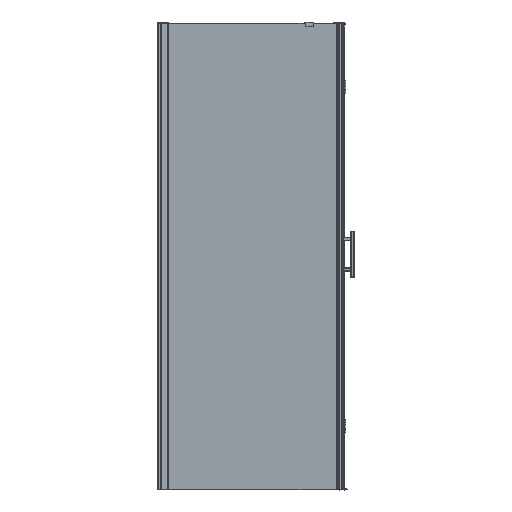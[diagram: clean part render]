
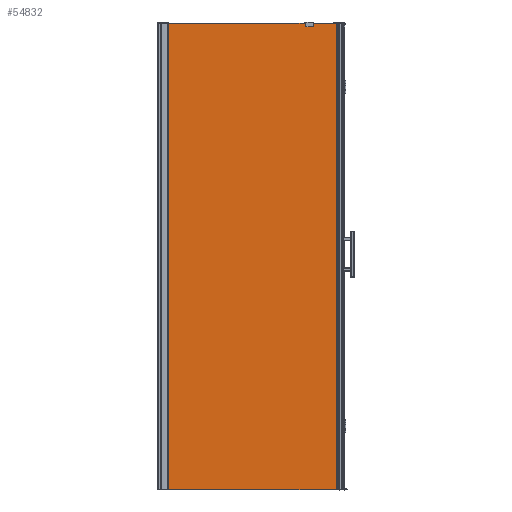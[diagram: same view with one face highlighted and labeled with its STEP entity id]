
A CAD part, top view. The second image highlights one B-rep face of the part: STEP entity #54832.
In plain terms, the highlighted planar face has unit normal (0, 0, 1).
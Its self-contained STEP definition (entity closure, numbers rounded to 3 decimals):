
#5901=FACE_OUTER_BOUND('',#9296,.T.);
#9296=EDGE_LOOP('',(#36291,#36292,#36293,#36294));
#12849=LINE('',#77158,#17666);
#12857=LINE('',#77173,#17674);
#12858=LINE('',#77175,#17675);
#12859=LINE('',#77176,#17676);
#17666=VECTOR('',#62985,10.);
#17674=VECTOR('',#62997,10.);
#17675=VECTOR('',#63000,10.);
#17676=VECTOR('',#63001,10.);
#22482=VERTEX_POINT('',#77154);
#22484=VERTEX_POINT('',#77157);
#22488=VERTEX_POINT('',#77169);
#22489=VERTEX_POINT('',#77171);
#27759=EDGE_CURVE('',#22482,#22484,#12849,.T.);
#27767=EDGE_CURVE('',#22488,#22489,#12857,.F.);
#27768=EDGE_CURVE('',#22488,#22482,#12858,.T.);
#27769=EDGE_CURVE('',#22484,#22489,#12859,.T.);
#36291=ORIENTED_EDGE('',*,*,#27768,.F.);
#36292=ORIENTED_EDGE('',*,*,#27767,.T.);
#36293=ORIENTED_EDGE('',*,*,#27769,.F.);
#36294=ORIENTED_EDGE('',*,*,#27759,.F.);
#53324=PLANE('',#58305);
#54832=ADVANCED_FACE('',(#5901),#53324,.T.);
#58305=AXIS2_PLACEMENT_3D('',#77174,#62998,#62999);
#62985=DIRECTION('',(0.,1.,0.));
#62997=DIRECTION('',(0.,-1.,0.));
#62998=DIRECTION('center_axis',(0.,0.,
1.));
#62999=DIRECTION('ref_axis',(1.,0.,0.));
#63000=DIRECTION('',(-1.,0.,0.));
#63001=DIRECTION('',(1.,0.,0.));
#77154=CARTESIAN_POINT('',(-1351.543,-1449.831,-919.));
#77157=CARTESIAN_POINT('',(-1351.543,500.169,-919.));
#77158=CARTESIAN_POINT('',(-1351.543,-1349.831,-919.));
#77169=CARTESIAN_POINT('',(-624.944,-1449.831,-919.));
#77171=CARTESIAN_POINT('',(-624.944,500.169,-919.));
#77173=CARTESIAN_POINT('',(-624.944,-1349.831,-919.));
#77174=CARTESIAN_POINT('Origin',(-1351.543,-1349.831,-919.));
#77175=CARTESIAN_POINT('',(-1119.894,-1449.831,-919.));
#77176=CARTESIAN_POINT('',(-424.944,500.169,-919.));
